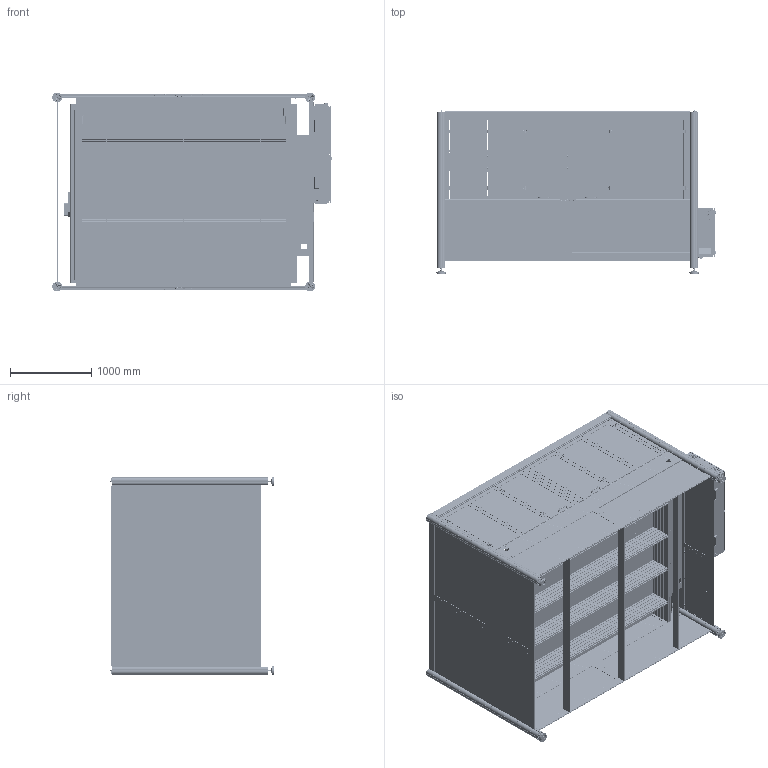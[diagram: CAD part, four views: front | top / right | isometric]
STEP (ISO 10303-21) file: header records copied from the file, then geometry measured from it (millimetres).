
FILE_DESCRIPTION (( 'STEP AP203' ), '1' );
FILE_NAME ('ZSB Flatcom 250 - Haube.STEP', '2011-02-14T09:39:14', ( 'Baier' ), ( 'isel Germany AG' ), 'SwSTEP 2.0', 'SolidWorks 2010', '' );
FILE_SCHEMA (( 'CONFIG_CONTROL_DESIGN' ));
Products named in the file (144): ZSB Flatcom 250 - Haube; SZ3597 P0046 - ZSB Untergestell Flatcom L250_SZ3597 P0046 - ZSB Untergestell Flatcom L250; P0046 - Flatcom - Paneelprofile_SZ4048 P0046 - PP250-01 - 2500x2000; P0046 - Flatcom - ZSB Eckfuss_Eckfuss-01; P0046 - Flatcom - PS100_SZ3211 P0046 - PS100-01; Alu-Gerätefuß d=120 -schwarz- Art.Nr.209 033 0003_Abstand 70; Alu-Gerätefuß d=120_Default; DIN 125_Scheibe DIN 125 ST 13; DIN 934_Sechskantmutter DIN 934 8 M 12; Profil-Abdeckung f黵 PS100 -schwarz-; T-Nuten-Abdeckprofil schwarz_832mm lang; P0046 - Flatcom - Paneelprofile_SZ4049 P0046 - PP100-01 - 2500x2000; P0046 - Flatcom - Paneelprofile_P0046 - PP100 L=2230mm - Zuschnitt; P0046 - Flatcom - Paneelprofile_SZ4383 P0046 - PP100 - Schaltschrank; SZ1906 - P0042 - PP100-09_PP100-09; SZ1926 - P0042 - PP50-10_SZ3214 P0046 - PP50 L= 400; P0042 - Schnellspannverbinder komplett (4 Stueck); P0042 - Schnellspannverbinder komplett (4 Stueck)_Verbindungssatz01; P0046 - Flatcom L150 - Seitenbleche_Blech-03; P0046 - Kontrollrahmen_P0046 - Kontrollrahmen Flatcom 250; SZ3430 P0046 - Winkel 1 für Kontrollöffnung_W4; P0046 - Flatcom L150 - Seitenbleche_SZ3598 P0046 - Abdeckplatte Kontrollöffung; P0046 - Kontrollrahmen_Frontseite; SZ3430 P0046 - Winkel 1 für Kontrollöffnung_W1; SZ3430 P0046 - Winkel 1 für Kontrollöffnung_W2; DIN 7991_Senkschraube DIN 7991, M 5 x 8; P0046 - Flatcom L150 - Seitenbleche_SZ3428 P0046 - Abdeckplatte Kontrollöffnung; Käfigmutter - M6 - 12,5x12,5x6 - 2,0mm; DIN 7380 Edelstahl_Linsenkopfschraube DIN 7380 M 6 x 12; P0046 - Flatcom L150 - Seitenbleche_Scheibe 420x1242x4mm; P0046 - Flatcom L150 - Seitenbleche_Blech-01; P0046 - Flatcom - Paneelprofile_P0046 - PP100 L=2314mm - Zuschnitt; P0046 - Flatcom - Paneelprofile_SZ4382 P0046 - PP250 - Schaltschrank; P0046 - Flatcom - Paneelprofile_P0046 - PP250 L=2230mm - Zuschnitt; Schaltschrank 1200x600x250; SZ3593 P0046 - Tischbaugruppe - Flatcom L250_SZ3593 P0046 - Tischbaugruppe - Flatcom L250; SZ3417 P0046 - Trägerprofil RE 65x250; SZ3418 P0046 - Trägerprofil RE 65x250 - gespiegelt; P0046 - XYZ- Achsenaufbau_P0046 - Ausführung Flatcom 250; P0046 - LES6 mit Riemenantrieb_Y-Achse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
Assembly tree (408 placements, depth 8):
  ZSB Flatcom 250 - Haube
    SZ3597 P0046 - ZSB Untergestell Flatcom L250_SZ3597 P0046 - ZSB Untergestell Flatcom L250
      P0046 - Flatcom - ZSB Eckfuss_Eckfuss-01  x4
        Profil-Abdeckung f黵 PS100 -schwarz-
        T-Nuten-Abdeckprofil schwarz_832mm lang
        P0046 - Flatcom - PS100_SZ3211 P0046 - PS100-01
        Alu-Gerätefuß d=120 -schwarz- Art.Nr.209 033 0003_Abstand 70
          DIN 934_Sechskantmutter DIN 934 8 M 12
          Alu-Gerätefuß d=120_Default
          DIN 125_Scheibe DIN 125 ST 13
      P0042 - Schnellspannverbinder komplett (4 Stueck)_Verbindungssatz01  x3
        P0042 - Schnellspannverbindungssatz 0° für PU25-PU50-PS50-PP
          DIN 914_Gewindestift DIN 914 M 6 x 8
          SZ1949 - P0042 - Spannbuchse für Profilverbindung (Nacharbeit)_Default
          TE1439 - Profilverbindungsbolzen 2 für PU25 und PU50_Profilverbindungsbolzen 2 für PU25 und PU50
      P0046 - Flatcom L150 - Seitenbleche_Blech-01  x3
      P0046 - Flatcom - Paneelprofile_SZ4048 P0046 - PP250-01 - 2500x2000  x2
      SZ1906 - P0042 - PP100-09_PP100-09  x3
      P0046 - Flatcom - Paneelprofile_P0046 - PP100 L=2314mm - Zuschnitt  x6
      Schaltschrank 1200x600x250
      P0046 - Kontrollrahmen_Frontseite
        Käfigmutter - M6 - 12,5x12,5x6 - 2,0mm  x8
        SZ3430 P0046 - Winkel 1 für Kontrollöffnung_W2  x2
        DIN 7380 Edelstahl_Linsenkopfschraube DIN 7380 M 6 x 12  x8
        SZ3430 P0046 - Winkel 1 für Kontrollöffnung_W1  x2
        P0046 - Flatcom L150 - Seitenbleche_SZ3428 P0046 - Abdeckplatte Kontrollöffnung
        DIN 7991_Senkschraube DIN 7991, M 5 x 8
      P0046 - Flatcom - Paneelprofile_P0046 - PP250 L=2230mm - Zuschnitt
      P0046 - Kontrollrahmen_P0046 - Kontrollrahmen Flatcom 250
        P0046 - Flatcom L150 - Seitenbleche_SZ3598 P0046 - Abdeckplatte Kontrollöffung
        DIN 7380 Edelstahl_Linsenkopfschraube DIN 7380 M 6 x 12  x12
        Käfigmutter - M6 - 12,5x12,5x6 - 2,0mm  x12
        DIN 7991_Senkschraube DIN 7991, M 5 x 8
        SZ3430 P0046 - Winkel 1 für Kontrollöffnung_W4  x2
        SZ3430 P0046 - Winkel 1 für Kontrollöffnung_W1  x2
      SZ1926 - P0042 - PP50-10_SZ3214 P0046 - PP50 L= 400
      P0046 - Flatcom - Paneelprofile_SZ4382 P0046 - PP250 - Schaltschrank
      P0046 - Flatcom - Paneelprofile_SZ4049 P0046 - PP100-01 - 2500x2000  x2
      P0046 - Flatcom L150 - Seitenbleche_Scheibe 420x1242x4mm
      P0042 - Schnellspannverbinder komplett (4 Stueck)
        P0042 - Schnellspannverbindungssatz 0° für PU25-PU50-PS50-PP  x2
          DIN 914_Gewindestift DIN 914 M 6 x 8
          SZ1949 - P0042 - Spannbuchse für Profilverbindung (Nacharbeit)_Default
          TE1439 - Profilverbindungsbolzen 2 für PU25 und PU50_Profilverbindungsbolzen 2 für PU25 und PU50
      P0046 - Flatcom - Paneelprofile_P0046 - PP100 L=2230mm - Zuschnitt
      P0046 - Flatcom L150 - Seitenbleche_Blech-03  x2
      P0046 - Flatcom - Paneelprofile_SZ4383 P0046 - PP100 - Schaltschrank
    SZ3593 P0046 - Tischbaugruppe - Flatcom L250_SZ3593 P0046 - Tischbaugruppe - Flatcom L250
      SZ3595 P0046 - Grundblech Flatcom 250_SZ3595 P0046 - Grundblech Flatcom 250
      P0046 - Arbeitsfläche PT50-250_P0046 - Arbeitsfläche PT50-250 - Flatcom 250
        P0046 - T-Nuten-Platte PT 50_T-Nuten-Platte_PT 50 - 250  L=2600mm  x9
      SZ3223 P0046 - Ablageblech E-Kette - Portal
      SZ3417 P0046 - Trägerprofil RE 65x250
      SZ4402 P0046 - Montageblech RE65-250 01
      P0046 - Querstrebe RE40-250_P0046 - Querstrebe RE40x250 - Flatcom 250  x4
        P0772 - Flatcom Typ L - RE40x250 WN_SZ3638 P0046 - RE40x250 WN - L=2514mm
      SZ4404 P0046 - Montageblech RE65-250 03
      SZ4403 P0046 - Montageblech RE65-250 02
      P0046 - XYZ- Achsenaufbau_P0046 - Ausführung Flatcom 250
        P0046 - LES6 mit Riemenantrieb_Y-Achse  x2
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Bounding box: 3441.95 x 2011.6 x 2450 mm (x, y, z)
Volume: 535411182.9 mm3; surface area: 191514481.7 mm2
Topology: 932 solids, 960 shells, 55763 faces, 155839 edges, 100759 vertices
Faces by surface type: plane 28012, cylinder 20680, cone 3256, torus 1579, bspline 1306, sphere 930
Entity records: 719833 total; most frequent: CARTESIAN_POINT 179370, ORIENTED_EDGE 111581, DIRECTION 104830, EDGE_CURVE 55832, VERTEX_POINT 36520, AXIS2_PLACEMENT_3D 35882, LINE 33066, VECTOR 33066
